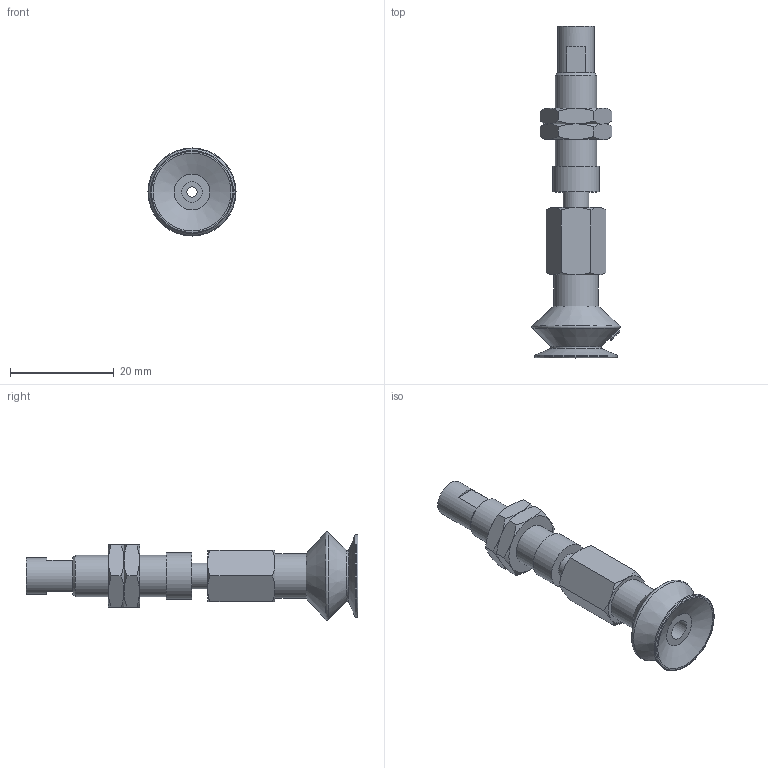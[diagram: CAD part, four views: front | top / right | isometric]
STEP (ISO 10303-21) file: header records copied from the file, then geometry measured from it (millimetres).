
FILE_DESCRIPTION(('STEP AP203'),'1');
FILE_NAME('.stp','2025-08-27T01:03:27',(' '),(' '),'Spatial InterOp 3D',' ',' ');
FILE_SCHEMA(('CONFIG_CONTROL_DESIGN'));
Length unit declared in the file: millimetre
Products named in the file (8): BNABPBTS-15A-3-※; ADAPTER; NAPATS-10A-3--M; Nut-15A-S-PB; NAPBTS-15A-3--F; BPBG-15A-※; __27; BPBG-15A
Assembly tree (8 placements, depth 3):
  BNABPBTS-15A-3-※
    ADAPTER
    NAPATS-10A-3--M
    Nut-15A-S-PB  x2
    NAPBTS-15A-3--F
    BPBG-15A-※
      __27
      BPBG-15A
Bounding box: 17 x 64 x 17 mm (x, y, z)
Volume: 4476.6 mm3; surface area: 4688.4 mm2
Topology: 7 solids, 7 shells, 128 faces, 272 edges, 166 vertices
Faces by surface type: cone 50, plane 42, cylinder 17, torus 11, bspline 8
Full cylindrical faces by diameter (mm): 2 x2, 4 x3, 4.134 x1, 5 x2, 6 x2, 7 x1, 7.188 x2, 8 x1, 8.5 x1, 9 x1, 16 x1
Entity records: 4261 total; most frequent: CARTESIAN_POINT 1885, DIRECTION 405, ORIENTED_EDGE 350, AXIS2_PLACEMENT_3D 188, EDGE_CURVE 175, EDGE_LOOP 159, FACE_OUTER_BOUND 132, VERTEX_POINT 126
